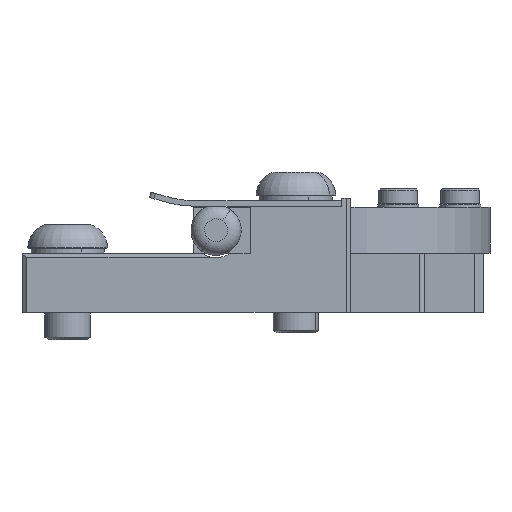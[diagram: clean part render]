
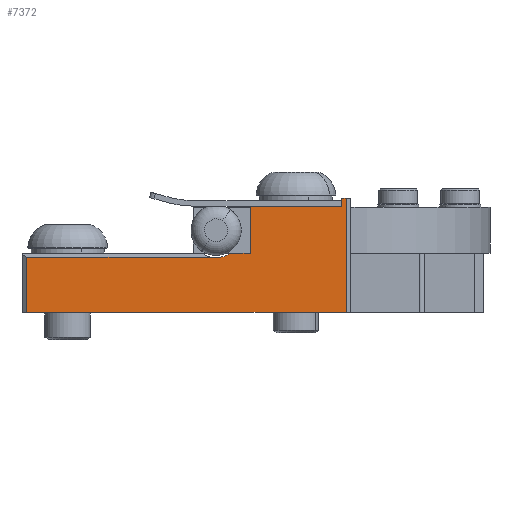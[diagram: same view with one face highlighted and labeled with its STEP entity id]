
A CAD part, front view. The second image highlights one B-rep face of the part: STEP entity #7372.
In plain terms, the highlighted planar face has unit normal (0, -1, 0).
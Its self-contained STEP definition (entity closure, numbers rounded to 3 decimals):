
#21 = EDGE_CURVE ( 'NONE', #3848, #4952, #210, .T. ) ;
#39 = CARTESIAN_POINT ( 'NONE',  ( -59., -10., 12.134 ) ) ;
#88 = ORIENTED_EDGE ( 'NONE', *, *, #5562, .T. ) ;
#210 = CIRCLE ( 'NONE', #6873, 5.5 ) ;
#397 = VECTOR ( 'NONE', #7373, 1000. ) ;
#458 = ORIENTED_EDGE ( 'NONE', *, *, #3286, .F. ) ;
#488 = VERTEX_POINT ( 'NONE', #2544 ) ;
#685 = CARTESIAN_POINT ( 'NONE',  ( -10., -10., 23.3 ) ) ;
#1176 = EDGE_CURVE ( 'NONE', #4952, #8113, #6531, .T. ) ;
#1322 = LINE ( 'NONE', #685, #4572 ) ;
#1374 = CARTESIAN_POINT ( 'NONE',  ( -59., -10., 13. ) ) ;
#1532 = VECTOR ( 'NONE', #3335, 1000. ) ;
#1747 = VECTOR ( 'NONE', #8296, 1000. ) ;
#1854 = DIRECTION ( 'NONE',  ( 1., 0., 0. ) ) ;
#2034 = LINE ( 'NONE', #1374, #397 ) ;
#2037 = DIRECTION ( 'NONE',  ( -1., 0., 0. ) ) ;
#2115 = AXIS2_PLACEMENT_3D ( 'NONE', #8032, #5365, #7086 ) ;
#2125 = CARTESIAN_POINT ( 'NONE',  ( -59., -10., 0. ) ) ;
#2186 = CARTESIAN_POINT ( 'NONE',  ( -60., -10., 0. ) ) ;
#2253 = EDGE_CURVE ( 'NONE', #488, #2665, #7110, .T. ) ;
#2502 = ORIENTED_EDGE ( 'NONE', *, *, #5775, .T. ) ;
#2544 = CARTESIAN_POINT ( 'NONE',  ( 10., -10., 25. ) ) ;
#2665 = VERTEX_POINT ( 'NONE', #2930 ) ;
#2732 = LINE ( 'NONE', #4889, #6803 ) ;
#2930 = CARTESIAN_POINT ( 'NONE',  ( 11., -10., 25. ) ) ;
#3071 = CARTESIAN_POINT ( 'NONE',  ( 11., -10., 0. ) ) ;
#3281 = FACE_OUTER_BOUND ( 'NONE', #7613, .T. ) ;
#3286 = EDGE_CURVE ( 'NONE', #8660, #4083, #2732, .T. ) ;
#3328 = VERTEX_POINT ( 'NONE', #2125 ) ;
#3335 = DIRECTION ( 'NONE',  ( 0., 0., 1. ) ) ;
#3670 = EDGE_CURVE ( 'NONE', #3848, #8504, #8683, .T. ) ;
#3750 = CARTESIAN_POINT ( 'NONE',  ( 10., -10., 25. ) ) ;
#3783 = VECTOR ( 'NONE', #5202, 1000. ) ;
#3848 = VERTEX_POINT ( 'NONE', #6530 ) ;
#4080 = DIRECTION ( 'NONE',  ( 1., 0., 0. ) ) ;
#4083 = VERTEX_POINT ( 'NONE', #6174 ) ;
#4162 = CARTESIAN_POINT ( 'NONE',  ( -60., -10., 13. ) ) ;
#4289 = ORIENTED_EDGE ( 'NONE', *, *, #3670, .F. ) ;
#4370 = CARTESIAN_POINT ( 'NONE',  ( -17.5, -10., 17.5 ) ) ;
#4572 = VECTOR ( 'NONE', #4720, 1000. ) ;
#4720 = DIRECTION ( 'NONE',  ( 0., 0., -1. ) ) ;
#4889 = CARTESIAN_POINT ( 'NONE',  ( -10., -10., 23.3 ) ) ;
#4952 = VERTEX_POINT ( 'NONE', #8080 ) ;
#4958 = EDGE_CURVE ( 'NONE', #3328, #7759, #6017, .T. ) ;
#5056 = VECTOR ( 'NONE', #4080, 1000. ) ;
#5198 = LINE ( 'NONE', #7667, #1532 ) ;
#5202 = DIRECTION ( 'NONE',  ( 0., 0., -1. ) ) ;
#5206 = ORIENTED_EDGE ( 'NONE', *, *, #21, .T. ) ;
#5258 = ORIENTED_EDGE ( 'NONE', *, *, #4958, .T. ) ;
#5365 = DIRECTION ( 'NONE',  ( 0., 1., 0. ) ) ;
#5534 = ORIENTED_EDGE ( 'NONE', *, *, #7446, .T. ) ;
#5562 = EDGE_CURVE ( 'NONE', #8660, #8504, #1322, .T. ) ;
#5775 = EDGE_CURVE ( 'NONE', #8113, #3328, #2034, .T. ) ;
#6000 = DIRECTION ( 'NONE',  ( -1., 0., 0. ) ) ;
#6004 = ORIENTED_EDGE ( 'NONE', *, *, #1176, .T. ) ;
#6017 = LINE ( 'NONE', #2186, #1747 ) ;
#6174 = CARTESIAN_POINT ( 'NONE',  ( 10., -10., 23.3 ) ) ;
#6196 = EDGE_CURVE ( 'NONE', #488, #4083, #8433, .T. ) ;
#6410 = CARTESIAN_POINT ( 'NONE',  ( -59., -10., 12.134 ) ) ;
#6530 = CARTESIAN_POINT ( 'NONE',  ( -14.338, -10., 13. ) ) ;
#6531 = LINE ( 'NONE', #39, #7707 ) ;
#6579 = CARTESIAN_POINT ( 'NONE',  ( -10., -10., 13. ) ) ;
#6793 = ORIENTED_EDGE ( 'NONE', *, *, #2253, .F. ) ;
#6803 = VECTOR ( 'NONE', #1854, 1000. ) ;
#6873 = AXIS2_PLACEMENT_3D ( 'NONE', #4370, #7150, #6000 ) ;
#6896 = PLANE ( 'NONE',  #2115 ) ;
#7086 = DIRECTION ( 'NONE',  ( 0., 0., 1. ) ) ;
#7110 = LINE ( 'NONE', #8468, #8250 ) ;
#7150 = DIRECTION ( 'NONE',  ( 0., 1., 0. ) ) ;
#7372 = ADVANCED_FACE ( 'NONE', ( #3281 ), #6896, .F. ) ;
#7373 = DIRECTION ( 'NONE',  ( 0., 0., -1. ) ) ;
#7446 = EDGE_CURVE ( 'NONE', #7759, #2665, #5198, .T. ) ;
#7613 = EDGE_LOOP ( 'NONE', ( #5206, #6004, #2502, #5258, #5534, #6793, #7804, #458, #88, #4289 ) ) ;
#7667 = CARTESIAN_POINT ( 'NONE',  ( 11., -10., 13. ) ) ;
#7707 = VECTOR ( 'NONE', #2037, 1000. ) ;
#7759 = VERTEX_POINT ( 'NONE', #3071 ) ;
#7804 = ORIENTED_EDGE ( 'NONE', *, *, #6196, .T. ) ;
#8032 = CARTESIAN_POINT ( 'NONE',  ( -60., -10., 13. ) ) ;
#8080 = CARTESIAN_POINT ( 'NONE',  ( -18.707, -10., 12.134 ) ) ;
#8113 = VERTEX_POINT ( 'NONE', #6410 ) ;
#8250 = VECTOR ( 'NONE', #8820, 1000. ) ;
#8296 = DIRECTION ( 'NONE',  ( 1., 0., 0. ) ) ;
#8433 = LINE ( 'NONE', #3750, #3783 ) ;
#8468 = CARTESIAN_POINT ( 'NONE',  ( 10., -10., 25. ) ) ;
#8499 = CARTESIAN_POINT ( 'NONE',  ( -10., -10., 23.3 ) ) ;
#8504 = VERTEX_POINT ( 'NONE', #6579 ) ;
#8660 = VERTEX_POINT ( 'NONE', #8499 ) ;
#8683 = LINE ( 'NONE', #4162, #5056 ) ;
#8820 = DIRECTION ( 'NONE',  ( 1., 0., 0. ) ) ;
